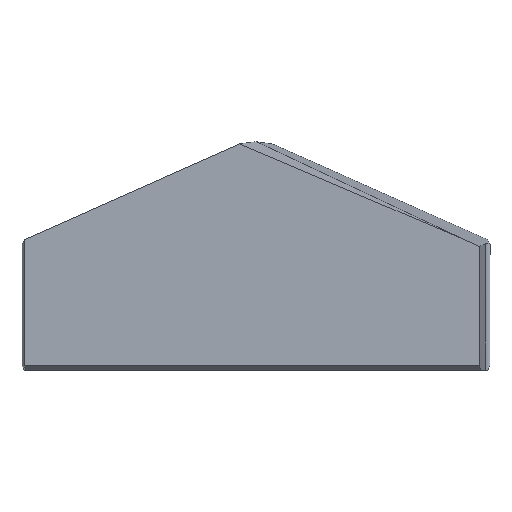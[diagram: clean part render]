
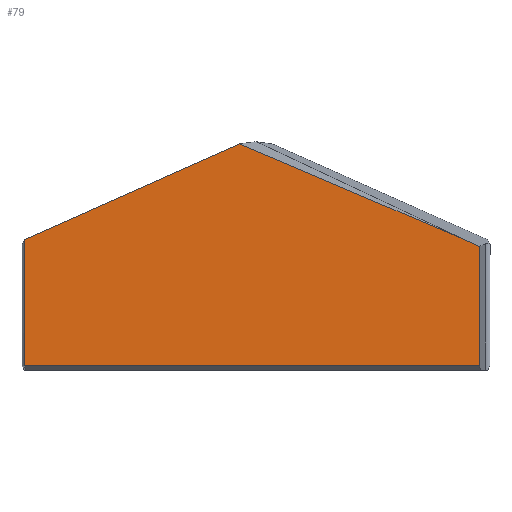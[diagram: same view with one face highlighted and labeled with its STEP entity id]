
A CAD part, top view. The second image highlights one B-rep face of the part: STEP entity #79.
In plain terms, the highlighted planar face has unit normal (0, 0, 1).
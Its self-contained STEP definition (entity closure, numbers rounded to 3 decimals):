
#6 = ORIENTED_EDGE ( 'NONE', *, *, #16, .T. ) ;
#12 = CARTESIAN_POINT ( 'NONE',  ( -16.49, 0.289, 4.8 ) ) ;
#16 = EDGE_CURVE ( 'NONE', #69, #405, #140, .T. ) ;
#21 = DIRECTION ( 'NONE',  ( -0.92, 0.392, 0. ) ) ;
#36 = EDGE_LOOP ( 'NONE', ( #279, #272, #6, #57, #246, #557, #347 ) ) ;
#42 = VECTOR ( 'NONE', #255, 1000. ) ;
#51 = VERTEX_POINT ( 'NONE', #299 ) ;
#55 = EDGE_CURVE ( 'NONE', #353, #94, #444, .T. ) ;
#57 = ORIENTED_EDGE ( 'NONE', *, *, #103, .F. ) ;
#62 = CARTESIAN_POINT ( 'NONE',  ( -16.496, 9.275, 4.8 ) ) ;
#65 = B_SPLINE_CURVE_WITH_KNOTS ( 'NONE', 3,
 ( #95, #180, #275, #12 ),
 .UNSPECIFIED., .F., .F.,
 ( 4, 4 ),
 ( 0., 0. ),
 .UNSPECIFIED. ) ;
#69 = VERTEX_POINT ( 'NONE', #476 ) ;
#74 = CARTESIAN_POINT ( 'NONE',  ( -16.496, 0., 4.8 ) ) ;
#79 = ADVANCED_FACE ( 'NONE', ( #458 ), #115, .T. ) ;
#82 = VECTOR ( 'NONE', #163, 1000. ) ;
#94 = VERTEX_POINT ( 'NONE', #436 ) ;
#95 = CARTESIAN_POINT ( 'NONE',  ( -16.496, 0.3, 4.8 ) ) ;
#103 = EDGE_CURVE ( 'NONE', #497, #405, #286, .T. ) ;
#106 = LINE ( 'NONE', #155, #82 ) ;
#115 = PLANE ( 'NONE',  #183 ) ;
#116 = LINE ( 'NONE', #147, #494 ) ;
#140 = LINE ( 'NONE', #292, #372 ) ;
#147 = CARTESIAN_POINT ( 'NONE',  ( 5.629, 13.204, 4.8 ) ) ;
#153 = EDGE_CURVE ( 'NONE', #51, #298, #106, .T. ) ;
#155 = CARTESIAN_POINT ( 'NONE',  ( 5.901, 13.254, 4.8 ) ) ;
#157 = CARTESIAN_POINT ( 'NONE',  ( 0., 0., 4.8 ) ) ;
#163 = DIRECTION ( 'NONE',  ( -0.914, 0.407, 0. ) ) ;
#180 = CARTESIAN_POINT ( 'NONE',  ( -16.494, 0.296, 4.8 ) ) ;
#183 = AXIS2_PLACEMENT_3D ( 'NONE', #157, #257, #294 ) ;
#202 = VECTOR ( 'NONE', #302, 1000. ) ;
#237 = DIRECTION ( 'NONE',  ( 0., 1., 0. ) ) ;
#246 = ORIENTED_EDGE ( 'NONE', *, *, #335, .T. ) ;
#255 = DIRECTION ( 'NONE',  ( 0., 1., 0. ) ) ;
#257 = DIRECTION ( 'NONE',  ( 0., 0., 1. ) ) ;
#272 = ORIENTED_EDGE ( 'NONE', *, *, #503, .T. ) ;
#275 = CARTESIAN_POINT ( 'NONE',  ( -16.492, 0.292, 4.8 ) ) ;
#279 = ORIENTED_EDGE ( 'NONE', *, *, #153, .T. ) ;
#286 = LINE ( 'NONE', #74, #42 ) ;
#292 = CARTESIAN_POINT ( 'NONE',  ( 0., 16.62, 4.8 ) ) ;
#294 = DIRECTION ( 'NONE',  ( 1., 0., 0. ) ) ;
#298 = VERTEX_POINT ( 'NONE', #320 ) ;
#299 = CARTESIAN_POINT ( 'NONE',  ( 15.92, 8.794, 4.8 ) ) ;
#302 = DIRECTION ( 'NONE',  ( 1., 0., 0. ) ) ;
#320 = CARTESIAN_POINT ( 'NONE',  ( 14.677, 9.347, 4.8 ) ) ;
#329 = CARTESIAN_POINT ( 'NONE',  ( -16.496, 0.3, 4.8 ) ) ;
#335 = EDGE_CURVE ( 'NONE', #497, #353, #65, .T. ) ;
#339 = DIRECTION ( 'NONE',  ( -0.914, -0.407, 0. ) ) ;
#344 = LINE ( 'NONE', #514, #477 ) ;
#347 = ORIENTED_EDGE ( 'NONE', *, *, #439, .T. ) ;
#353 = VERTEX_POINT ( 'NONE', #411 ) ;
#372 = VECTOR ( 'NONE', #339, 1000. ) ;
#405 = VERTEX_POINT ( 'NONE', #62 ) ;
#411 = CARTESIAN_POINT ( 'NONE',  ( -16.49, 0.289, 4.8 ) ) ;
#436 = CARTESIAN_POINT ( 'NONE',  ( 15.92, 0.289, 4.8 ) ) ;
#439 = EDGE_CURVE ( 'NONE', #94, #51, #344, .T. ) ;
#444 = LINE ( 'NONE', #481, #202 ) ;
#458 = FACE_OUTER_BOUND ( 'NONE', #36, .T. ) ;
#476 = CARTESIAN_POINT ( 'NONE',  ( -1.166, 16.101, 4.8 ) ) ;
#477 = VECTOR ( 'NONE', #237, 1000. ) ;
#481 = CARTESIAN_POINT ( 'NONE',  ( 16.321, 0.289, 4.8 ) ) ;
#494 = VECTOR ( 'NONE', #21, 1000. ) ;
#497 = VERTEX_POINT ( 'NONE', #329 ) ;
#503 = EDGE_CURVE ( 'NONE', #298, #69, #116, .T. ) ;
#514 = CARTESIAN_POINT ( 'NONE',  ( 15.92, 0., 4.8 ) ) ;
#557 = ORIENTED_EDGE ( 'NONE', *, *, #55, .T. ) ;
